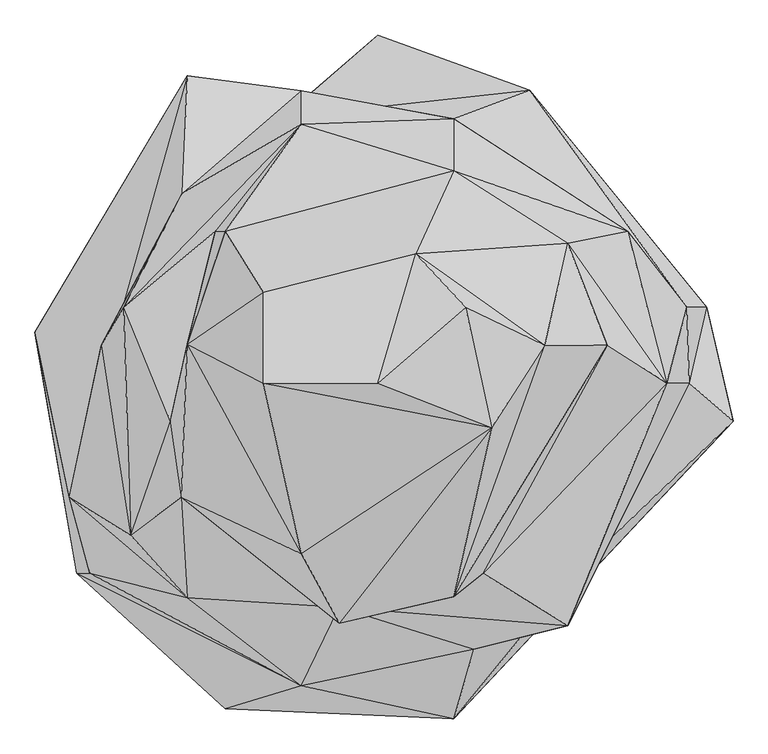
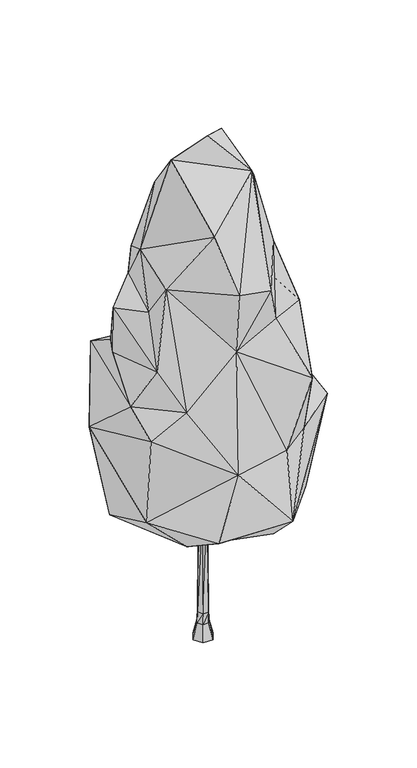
"""IFC4 building model written with IfcOpenShell, lengths in millimetres: geographic element geometry, Enscape AssetDefinition - Coniferous Tree 017 Spruce : Enscape AssetDefinition - Coniferous Tree 017 Spruce 2."""

from ifc_helpers import new_model, si_unit, origin, place, context, project, spatial, triangles, source, transform, mapped, element, save


def geographic_element_81580eb1(model_context):
    return source(origin(), model_context, "Body", "Tessellation", [
        triangles([(-419.4733784, 51.5219415, 692.0178617), (-505.0248788, 71.3711614, 1156.5455395), (-214.2410291, -238.6292752, 634.2593233), (-441.4791573, -296.6594177, 870.2522587), (-214.2410291, -504.0331152, 810.8407688), (-421.4343415, -296.6594177, 1275.3683739), (-272.3978535, -334.1584188, 1394.1914989), (-97.927253, -468.5351729, 1097.1340496), (134.699963, -519.1493073, 810.8407688), (165.4918971, -412.7200479, 1097.1340496), (-39.7704467, -348.9599499, 1631.8373131), (309.1705544, -376.6819496, 1394.1914989), (309.1705544, -306.9410757, 1097.1340496), (521.2346088, 109.5520703, 870.2522587), (561.5019184, -64.5385161, 1037.7224871), (425.4842033, -122.5688176, 650.4504862), (134.699963, -354.6897237, 648.0621872), (425.4842033, 51.5219415, 664.5038435), (491.0419024, 109.5520703, 1275.3683739), (251.0135665, 441.1456384, 1048.4866556), (459.880396, -6.5083782, 1513.0143333), (400.4593863, 225.6125188, 1572.4259686), (134.699963, 318.2884209, 1869.4831272), (494.613523, -6.5083782, 1156.5455395), (369.6175916, 51.5219415, 1810.0717827), (309.1705544, 206.985876, 1691.2488029), (179.5684543, -296.6594177, 1691.2488029), (134.699963, -332.6255181, 1869.4831272), (273.4480074, 51.5219415, 2183.4258831), (-156.0840593, -6.5083782, 2438.3130867), (192.8569419, -74.3921025, 2302.2485722), (-39.7704467, -373.3403658, 1928.8946171), (-281.5493116, -180.5989692, 1928.8946171), (-97.927253, -267.2483314, 2183.4258831), (-298.3850754, -64.5385161, 1750.6601475), (-358.9664612, -238.6292752, 1572.4259686), (-272.3978535, 53.139875, 1988.3059616), (18.3863595, -6.5083782, 2500.0000191), (153.310355, 109.5520703, 2421.0715519), (76.5431658, 191.4493062, 2242.8375183), (-156.0840593, 132.5503395, 2242.8375183), (-229.2257249, 225.6125188, 1750.6601475), (-214.2410291, 225.6125188, 1882.1455811), (-97.927253, 389.0876967, 1631.8373131), (134.699963, 397.2985328, 1513.0143333), (-97.927253, 440.5691111, 1275.3683739), (-369.174014, 109.5520703, 1691.2488029), (-279.6035547, 283.642843, 1394.1914989), (-403.5074924, 51.5219415, 1513.0143333), (-272.3978535, 463.2143495, 1275.3683739), (309.1705544, 350.5235899, 751.4292789), (18.3863595, 525.3743271, 870.2522587), (192.8569419, 341.6729673, 657.8473457), (-156.0840593, 341.6729673, 671.6307341), (-39.7704467, 411.4830231, 751.4292789), (-126.3923215, 399.7032552, 870.2522587), (-452.7954723, -180.5989692, 1394.1914989), (14.7075881, 23.9331935, 37.1025273), (28.3957481, -0.1170218, 37.1025273), (48.6012168, -0.0025012, -41.0916324), (14.0011689, 22.4029771, 91.285589), (14.4117271, -23.9964414, 37.1025273), (24.6135299, -41.4375143, -41.0916324), (-47.1538941, 0.1102328, -41.0916324), (-23.2639393, -41.3812359, -41.0916324), (-13.2604472, -23.8254648, 37.1025273), (13.4398217, -22.6193338, 91.285589), (-26.9484278, 0.2247534, 37.1025273), (-25.2699238, 0.378043, 91.285589), (-9.0726742, -18.0167146, 677.8060839), (-12.5538508, -22.2952461, 91.285589), (11.4749264, -17.4653731, 677.8060839), (-19.8240307, -0.497566, 677.8060839), (24.7112574, 41.4887875, -41.0916324), (-23.1663889, 41.5452476, -41.0916324), (-12.964409, 24.1039907, 37.1025273), (-11.9925025, 22.7270648, 91.285589), (-10.0277877, 17.5729258, 677.8060839), (10.519994, 18.1242684, 677.8060839), (26.7172418, -0.2703115, 91.285589), (21.2713511, 0.6052976, 677.8060839)], [[81, 72, 67], [67, 80, 81], [79, 81, 80], [80, 61, 79], [61, 80, 59], [78, 79, 61], [61, 77, 78], [73, 78, 77], [74, 75, 76], [70, 73, 69], [77, 69, 73], [69, 77, 76], [71, 67, 72], [72, 70, 71], [69, 71, 70], [71, 69, 68], [76, 68, 69], [68, 76, 75], [75, 64, 68], [67, 71, 66], [68, 66, 71], [66, 68, 64], [62, 59, 80], [80, 67, 62], [66, 62, 67], [62, 66, 65], [64, 65, 66], [59, 62, 63], [65, 63, 62], [63, 60, 59], [58, 76, 77], [77, 61, 58], [76, 58, 74], [59, 58, 61], [60, 74, 58], [58, 59, 60], [36, 57, 7], [57, 36, 49], [57, 50, 2], [56, 1, 2], [2, 50, 56], [56, 55, 1], [1, 55, 54], [56, 53, 55], [55, 53, 54], [52, 53, 56], [53, 20, 51], [56, 20, 52], [52, 20, 53], [56, 45, 20], [46, 56, 50], [45, 56, 46], [48, 46, 50], [50, 57, 48], [57, 49, 48], [47, 48, 49], [36, 47, 49], [48, 44, 46], [47, 44, 48], [44, 45, 46], [44, 23, 45], [43, 23, 44], [43, 44, 42], [42, 44, 47], [35, 42, 47], [36, 35, 47], [37, 43, 42], [35, 37, 42], [41, 43, 37], [41, 40, 23], [41, 23, 43], [38, 39, 40], [41, 38, 40], [30, 38, 41], [30, 41, 37], [34, 30, 37], [33, 36, 7], [33, 35, 36], [33, 34, 37], [33, 37, 35], [11, 33, 7], [34, 33, 32], [32, 33, 11], [31, 34, 32], [31, 39, 38], [30, 31, 38], [31, 30, 34], [39, 29, 40], [31, 29, 39], [11, 28, 32], [31, 28, 29], [32, 28, 31], [28, 11, 27], [12, 27, 11], [29, 28, 25], [25, 28, 27], [29, 25, 26], [40, 26, 23], [40, 29, 26], [25, 21, 26], [27, 21, 25], [27, 12, 21], [21, 12, 24], [23, 26, 22], [23, 22, 45], [26, 21, 22], [21, 24, 19], [45, 22, 19], [22, 21, 19], [45, 19, 20], [19, 24, 14], [19, 14, 20], [18, 53, 51], [20, 18, 51], [20, 14, 18], [18, 54, 53], [17, 1, 54], [17, 54, 18], [16, 17, 18], [15, 16, 18], [24, 15, 14], [14, 15, 18], [24, 12, 13], [13, 15, 24], [12, 10, 13], [12, 11, 10], [13, 10, 9], [15, 13, 9], [15, 9, 16], [9, 17, 16], [3, 1, 17], [9, 3, 17], [9, 5, 3], [9, 8, 5], [10, 8, 9], [11, 8, 10], [11, 7, 8], [6, 7, 57], [57, 2, 6], [8, 7, 6], [5, 8, 4], [3, 5, 4], [8, 6, 4], [4, 2, 1], [4, 1, 3], [4, 6, 2]], closed=False),
    ])


if __name__ == "__main__":
    model = new_model("IFC4")
    model_context = context("Model", 3, world=origin())
    ifc_project = project(units=[si_unit("LENGTHUNIT", "METRE", prefix="MILLI")], contexts=[model_context])
    site = spatial("IfcSite", under=ifc_project)
    building = spatial("IfcBuilding", under=site)
    placement = place(None, origin())
    geographic_element_shape = geographic_element_81580eb1(model_context)
    element("IfcGeographicElement", 1, ObjectType="Enscape AssetDefinition - Coniferous Tree 017 Spruce : Enscape AssetDefinition - Coniferous Tree 017 Spruce 2", at=placement, inside=building, context=model_context, shape_type="MappedRepresentation", body=[
        mapped(geographic_element_shape, transform((0.0, 0.0, 0.0), x_axis=(1.0, 0.0, 0.0), y_axis=(0.0, 1.0, 0.0), z_axis=(0.0, 0.0, 1.0))),
    ])
    save(model, "model.ifc")
